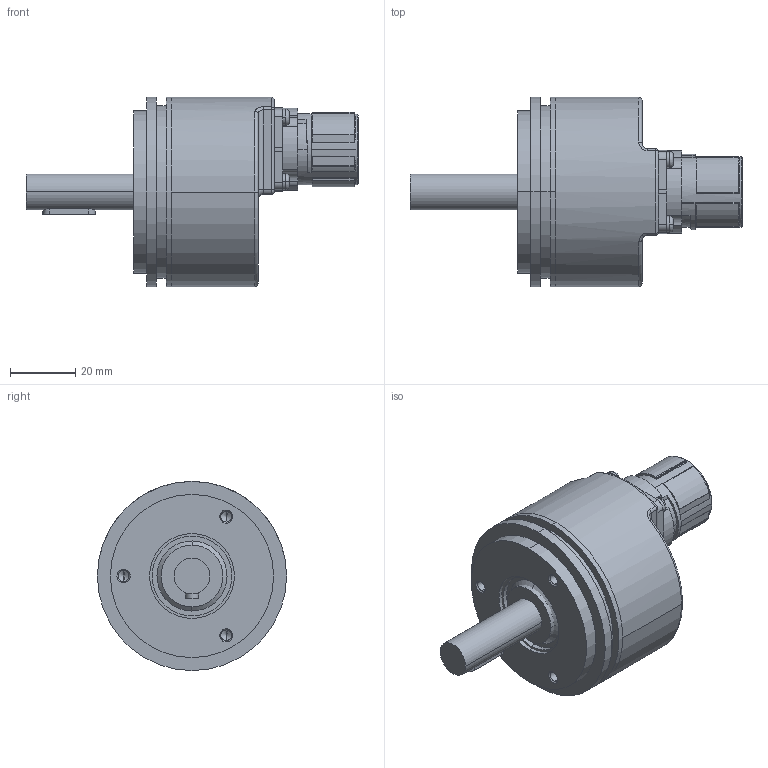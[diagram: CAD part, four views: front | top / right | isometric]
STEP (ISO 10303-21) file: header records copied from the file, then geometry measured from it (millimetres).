
FILE_DESCRIPTION (( 'STEP AP203' ), '1' );
FILE_NAME ('K58I.OXX.XXXXX.XS3S511.6XAC4.step', '2025-12-08T15:51:01', ( '' ), ( '' ), 'SwSTEP 2.0', 'SolidWorks 2021', '' );
FILE_SCHEMA (( 'CONFIG_CONTROL_DESIGN' ));
Length unit declared in the file: millimetre
Products named in the file (1): K58I.OXX.XXXXX.XS3S511.6XAC4
Bounding box: 101.79 x 58 x 58 mm (x, y, z)
Volume: 134335.5 mm3; surface area: 30727.6 mm2
Topology: 5 solids, 5 shells, 579 faces, 1465 edges, 930 vertices
Faces by surface type: cylinder 233, plane 175, bspline 98, sphere 36, cone 19, torus 18
Entity records: 23332 total; most frequent: CARTESIAN_POINT 9735, ORIENTED_EDGE 2858, DIRECTION 2742, EDGE_CURVE 1429, AXIS2_PLACEMENT_3D 1046, VERTEX_POINT 927, EDGE_LOOP 650, LINE 650
